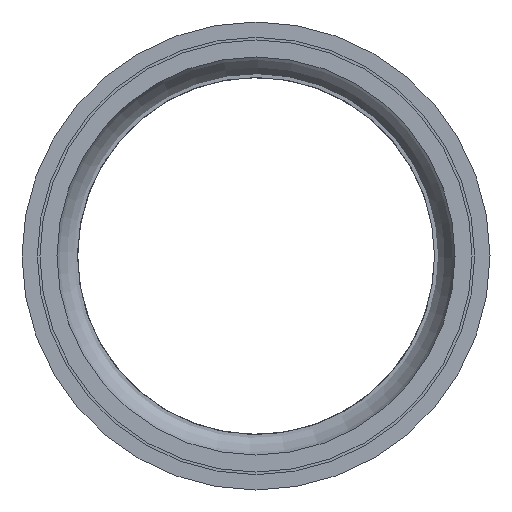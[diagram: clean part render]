
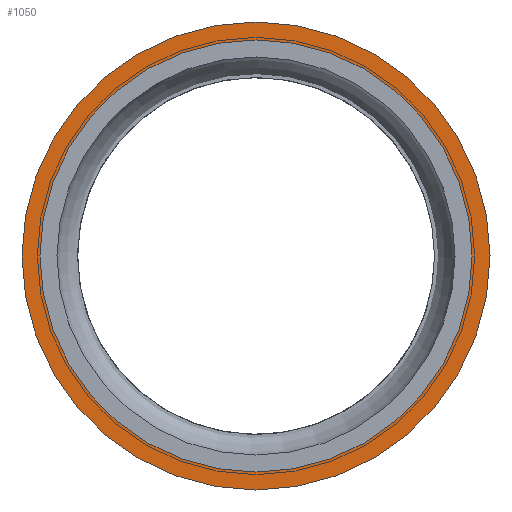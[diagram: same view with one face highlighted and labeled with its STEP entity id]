
A CAD part, left-side view. The second image highlights one B-rep face of the part: STEP entity #1050.
In plain terms, the highlighted planar face has unit normal (-1, 0, 0).
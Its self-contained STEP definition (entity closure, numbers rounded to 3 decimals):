
#133=PLANE('',#1170);
#195=FACE_BOUND('',#379,.T.);
#196=FACE_BOUND('',#380,.T.);
#379=EDGE_LOOP('',(#885));
#380=EDGE_LOOP('',(#886));
#431=CIRCLE('',#1169,53.5);
#432=CIRCLE('',#1171,49.4);
#535=VERTEX_POINT('',#4120);
#536=VERTEX_POINT('',#4123);
#653=EDGE_CURVE('',#535,#535,#431,.T.);
#654=EDGE_CURVE('',#536,#536,#432,.T.);
#885=ORIENTED_EDGE('',*,*,#654,.F.);
#886=ORIENTED_EDGE('',*,*,#653,.T.);
#1050=ADVANCED_FACE('',(#195,#196),#133,.T.);
#1169=AXIS2_PLACEMENT_3D('',#4121,#1395,#1396);
#1170=AXIS2_PLACEMENT_3D('',#4122,#1397,#1398);
#1171=AXIS2_PLACEMENT_3D('',#4124,#1399,#1400);
#1395=DIRECTION('center_axis',(-1.,0.,0.));
#1396=DIRECTION('ref_axis',(0.,0.,
-1.));
#1397=DIRECTION('center_axis',(-1.,0.,0.));
#1398=DIRECTION('ref_axis',(0.,0.,-1.));
#1399=DIRECTION('center_axis',(-1.,0.,0.));
#1400=DIRECTION('ref_axis',(0.,0.,
-1.));
#4120=CARTESIAN_POINT('',(-554.99,-53.5,0.));
#4121=CARTESIAN_POINT('Origin',(-554.99,0.,0.));
#4122=CARTESIAN_POINT('Origin',(-554.99,-49.4,0.));
#4123=CARTESIAN_POINT('',(-554.99,-49.4,0.));
#4124=CARTESIAN_POINT('Origin',(-554.99,0.,0.));
